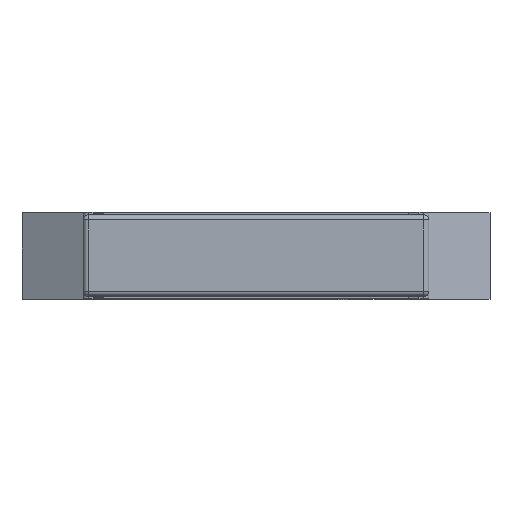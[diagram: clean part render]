
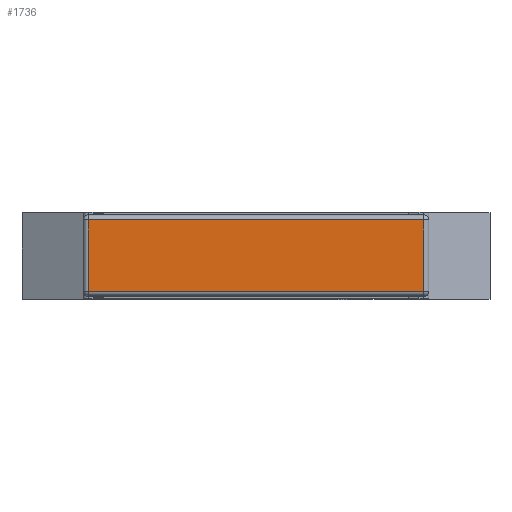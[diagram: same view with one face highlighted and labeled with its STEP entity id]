
A CAD part, top view. The second image highlights one B-rep face of the part: STEP entity #1736.
In plain terms, the highlighted planar face has unit normal (0, 0, 1).
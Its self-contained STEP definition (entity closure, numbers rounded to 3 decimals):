
#1736=ADVANCED_FACE('',(#6441),#6443,.T.);
#6441=FACE_BOUND('',#6442,.T.);
#6442=EDGE_LOOP('',(#10136,#10137,#10138,#10139));
#6443=PLANE('',#6444);
#6444=AXIS2_PLACEMENT_3D('',#6445,#6446,#6447);
#6445=CARTESIAN_POINT('',(-6.,8.25,44.));
#6446=DIRECTION('',(0.,0.,1.));
#6447=DIRECTION('',(-1.,0.,0.));
#10136=ORIENTED_EDGE('',*,*,#12696,.T.);
#10137=ORIENTED_EDGE('',*,*,#12686,.T.);
#10138=ORIENTED_EDGE('',*,*,#12699,.T.);
#10139=ORIENTED_EDGE('',*,*,#12691,.T.);
#12686=EDGE_CURVE('',#14608,#14606,#14609,.T.);
#12691=EDGE_CURVE('',#14615,#14613,#14616,.T.);
#12696=EDGE_CURVE('',#14613,#14608,#14621,.T.);
#12699=EDGE_CURVE('',#14606,#14615,#14624,.T.);
#14606=VERTEX_POINT('',#18104);
#14608=VERTEX_POINT('',#18109);
#14609=LINE('',#18110,#18111);
#14613=VERTEX_POINT('',#18125);
#14615=VERTEX_POINT('',#18130);
#14616=LINE('',#18131,#18132);
#14621=LINE('',#18150,#18151);
#14624=LINE('',#18161,#18162);
#18104=CARTESIAN_POINT('',(-39.5,7.75,44.));
#18109=CARTESIAN_POINT('',(-6.5,7.75,44.));
#18110=CARTESIAN_POINT('',(-6.5,7.75,44.));
#18111=VECTOR('',#18112,1.);
#18112=DIRECTION('',(-1.,0.,0.));
#18125=CARTESIAN_POINT('',(-6.5,0.75,44.));
#18130=CARTESIAN_POINT('',(-39.5,0.75,44.));
#18131=CARTESIAN_POINT('',(-39.5,0.75,44.));
#18132=VECTOR('',#18133,1.);
#18133=DIRECTION('',(1.,0.,0.));
#18150=CARTESIAN_POINT('',(-6.5,0.75,44.));
#18151=VECTOR('',#18152,1.);
#18152=DIRECTION('',(0.,1.,0.));
#18161=CARTESIAN_POINT('',(-39.5,7.75,44.));
#18162=VECTOR('',#18163,1.);
#18163=DIRECTION('',(0.,-1.,0.));
